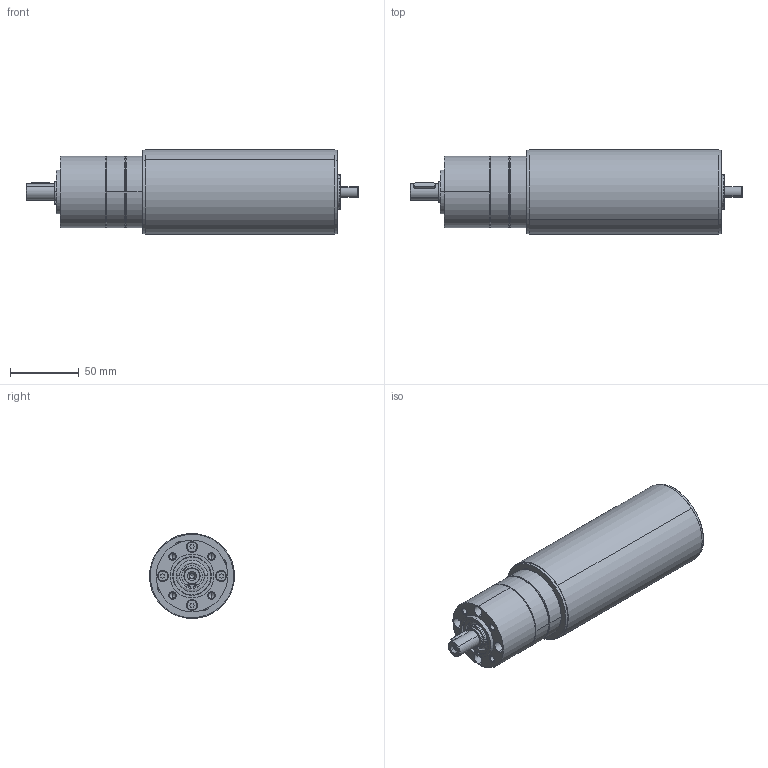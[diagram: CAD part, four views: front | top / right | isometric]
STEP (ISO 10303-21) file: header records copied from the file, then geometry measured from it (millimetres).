
FILE_DESCRIPTION (( 'STEP AP214' ), '1' );
FILE_NAME ('1.25.058-PM52 1 etage.STEP', '2016-01-26T15:53:15', ( '' ), ( '' ), 'SwSTEP 2.0', 'SolidWorks 2014', '' );
FILE_SCHEMA (( 'AUTOMOTIVE_DESIGN' ));
Length unit declared in the file: millimetre
Products named in the file (17): Coté sortie^PM52 pour EC45Flat-70W; SCHRAUBE_1241978_6; 8006405_DICHTRING_2; 4X4X16_D6885A_2; D471_12X1_5_2; 8102168_ABTRIEB_LK1_KPL_2; GK2152_POS31_2_LAGERBOLZEN_2; 8101171_ABTRIEB_ROHTEIL_AF0_2; DIN998_PS_12X18X1_2; D625-6001-2RS_2; 8006231_LAGERFLANSCH_2; 8006230_ZAHNKRANZ_Z46_2; 1.25.058-PM52 1 etage; 1.25.058.4XX_Part; FLANSCH_1210976_1; PM52 pour EC45Flat-70W_1 etage; Coté moteur^PM52 pour EC45Flat-70W
Assembly tree (24 placements, depth 5):
  1.25.058-PM52 1 etage
    PM52 pour EC45Flat-70W_1 etage
      8006230_ZAHNKRANZ_Z46_2
      Coté sortie^PM52 pour EC45Flat-70W
        8006231_LAGERFLANSCH_2
        D625-6001-2RS_2  x2
        DIN998_PS_12X18X1_2  x2
        8102168_ABTRIEB_LK1_KPL_2
          8101171_ABTRIEB_ROHTEIL_AF0_2
          GK2152_POS31_2_LAGERBOLZEN_2  x3
        D471_12X1_5_2
        4X4X16_D6885A_2
        8006405_DICHTRING_2
        SCHRAUBE_1241978_6  x4
      Coté moteur^PM52 pour EC45Flat-70W
        8006405_DICHTRING_2
    FLANSCH_1210976_1
    1.25.058.4XX_Part
Bounding box: 242.1 x 62 x 62 mm (x, y, z)
Volume: 448067.6 mm3; surface area: 96667.9 mm2
Topology: 17 solids, 39 shells, 870 faces, 2142 edges, 1335 vertices
Faces by surface type: cylinder 389, plane 220, cone 209, bspline 52
Entity records: 25819 total; most frequent: CARTESIAN_POINT 4924, DIRECTION 4138, ORIENTED_EDGE 3540, EDGE_CURVE 1790, AXIS2_PLACEMENT_3D 1643, VERTEX_POINT 1145, CIRCLE 902, EDGE_LOOP 871
